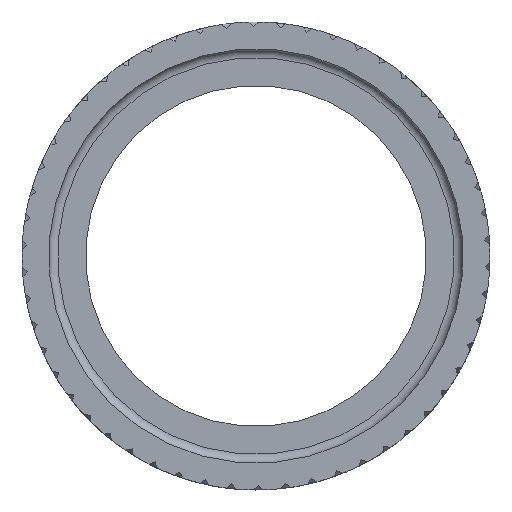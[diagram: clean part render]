
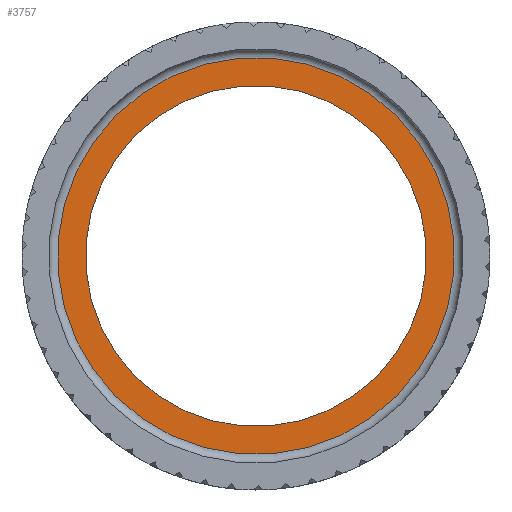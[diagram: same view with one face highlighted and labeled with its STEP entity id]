
A CAD part, top view. The second image highlights one B-rep face of the part: STEP entity #3757.
In plain terms, the highlighted planar face has unit normal (0, 0, 1).
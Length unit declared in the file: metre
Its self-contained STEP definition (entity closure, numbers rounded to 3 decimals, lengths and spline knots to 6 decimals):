
#419=PLANE('',#3996);
#486=CIRCLE('',#3997,0.03375);
#487=CIRCLE('',#3998,0.029);
#643=ORIENTED_EDGE('',*,*,#1931,.T.);
#644=ORIENTED_EDGE('',*,*,#1932,.T.);
#1931=EDGE_CURVE('',#2575,#2575,#486,.F.);
#1932=EDGE_CURVE('',#2576,#2576,#487,.T.);
#2575=VERTEX_POINT('',#4837);
#2576=VERTEX_POINT('',#4839);
#3288=EDGE_LOOP('',(#643));
#3289=EDGE_LOOP('',(#644));
#3522=FACE_BOUND('',#3288,.T.);
#3523=FACE_BOUND('',#3289,.T.);
#3757=ADVANCED_FACE('',(#3522,#3523),#419,.F.);
#3996=AXIS2_PLACEMENT_3D('',#4835,#4193,#4194);
#3997=AXIS2_PLACEMENT_3D('',#4836,#4195,#4196);
#3998=AXIS2_PLACEMENT_3D('',#4838,#4197,#4198);
#4193=DIRECTION('',(0.,0.,-1.));
#4194=DIRECTION('',(0.819,0.574,0.));
#4195=DIRECTION('',(0.,0.,-1.));
#4196=DIRECTION('',(0.819,0.574,0.));
#4197=DIRECTION('',(0.,0.,-1.));
#4198=DIRECTION('',(0.819,0.574,0.));
#4835=CARTESIAN_POINT('',(0.,0.,0.0678));
#4836=CARTESIAN_POINT('',(0.,0.,0.0678));
#4837=CARTESIAN_POINT('',(0.027646,0.019358,0.0678));
#4838=CARTESIAN_POINT('',(0.,0.,0.0678));
#4839=CARTESIAN_POINT('',(0.023755,0.016634,0.0678));
